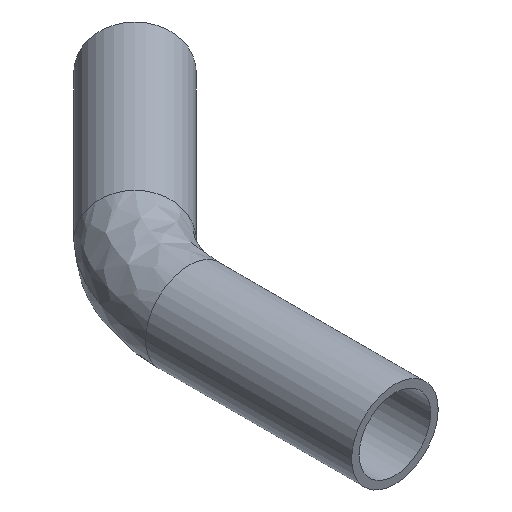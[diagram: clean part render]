
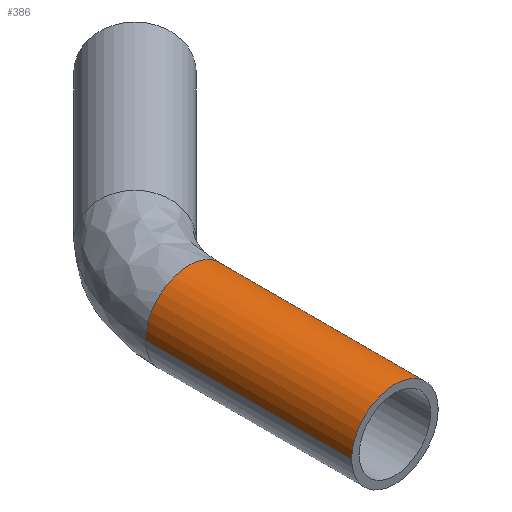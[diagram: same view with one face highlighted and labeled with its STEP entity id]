
A CAD part, isometric view. The second image highlights one B-rep face of the part: STEP entity #386.
In plain terms, the highlighted cylindrical face has radius 9.525 mm (diameter 19.05 mm), a partial arc.
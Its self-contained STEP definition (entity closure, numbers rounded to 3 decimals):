
#15 = EDGE_CURVE ( 'NONE', #435, #308, #211, .T. ) ;
#22 = CIRCLE ( 'NONE', #326, 9.525 ) ;
#57 = CARTESIAN_POINT ( 'NONE',  ( -9.525, 45.353, 0. ) ) ;
#62 = VERTEX_POINT ( 'NONE', #177 ) ;
#68 = CARTESIAN_POINT ( 'NONE',  ( 0., 45.353, 0. ) ) ;
#79 = DIRECTION ( 'NONE',  ( 0., -1., 0. ) ) ;
#80 = DIRECTION ( 'NONE',  ( 1., 0., 0. ) ) ;
#93 = ORIENTED_EDGE ( 'NONE', *, *, #270, .F. ) ;
#94 = CARTESIAN_POINT ( 'NONE',  ( 9.525, 45.353, 0. ) ) ;
#107 = FACE_OUTER_BOUND ( 'NONE', #317, .T. ) ;
#149 = CIRCLE ( 'NONE', #286, 9.525 ) ;
#161 = DIRECTION ( 'NONE',  ( 0., -1., 0. ) ) ;
#163 = CARTESIAN_POINT ( 'NONE',  ( -9.525, 45.353, 0. ) ) ;
#173 = CARTESIAN_POINT ( 'NONE',  ( 0., 45.353, 0. ) ) ;
#174 = DIRECTION ( 'NONE',  ( 0., 1., 0. ) ) ;
#175 = EDGE_CURVE ( 'NONE', #308, #225, #149, .T. ) ;
#176 = DIRECTION ( 'NONE',  ( 1., 0., 0. ) ) ;
#177 = CARTESIAN_POINT ( 'NONE',  ( 9.525, 45.353, 0. ) ) ;
#181 = DIRECTION ( 'NONE',  ( 0., 1., 0. ) ) ;
#211 = LINE ( 'NONE', #163, #229 ) ;
#225 = VERTEX_POINT ( 'NONE', #441 ) ;
#229 = VECTOR ( 'NONE', #161, 1000. ) ;
#270 = EDGE_CURVE ( 'NONE', #62, #225, #349, .T. ) ;
#286 = AXIS2_PLACEMENT_3D ( 'NONE', #366, #181, #176 ) ;
#308 = VERTEX_POINT ( 'NONE', #413 ) ;
#317 = EDGE_LOOP ( 'NONE', ( #418, #414, #365, #93 ) ) ;
#323 = EDGE_CURVE ( 'NONE', #435, #62, #22, .T. ) ;
#326 = AXIS2_PLACEMENT_3D ( 'NONE', #173, #174, #363 ) ;
#339 = DIRECTION ( 'NONE',  ( 0., -1., 0. ) ) ;
#349 = LINE ( 'NONE', #94, #380 ) ;
#358 = CYLINDRICAL_SURFACE ( 'NONE', #446, 9.525 ) ;
#363 = DIRECTION ( 'NONE',  ( -1., 0., 0. ) ) ;
#365 = ORIENTED_EDGE ( 'NONE', *, *, #175, .T. ) ;
#366 = CARTESIAN_POINT ( 'NONE',  ( 0., 0., 0. ) ) ;
#380 = VECTOR ( 'NONE', #79, 1000. ) ;
#386 = ADVANCED_FACE ( 'NONE', ( #107 ), #358, .T. ) ;
#413 = CARTESIAN_POINT ( 'NONE',  ( -9.525, 0., 0. ) ) ;
#414 = ORIENTED_EDGE ( 'NONE', *, *, #15, .T. ) ;
#418 = ORIENTED_EDGE ( 'NONE', *, *, #323, .F. ) ;
#435 = VERTEX_POINT ( 'NONE', #57 ) ;
#441 = CARTESIAN_POINT ( 'NONE',  ( 9.525, 0., 0. ) ) ;
#446 = AXIS2_PLACEMENT_3D ( 'NONE', #68, #339, #80 ) ;
